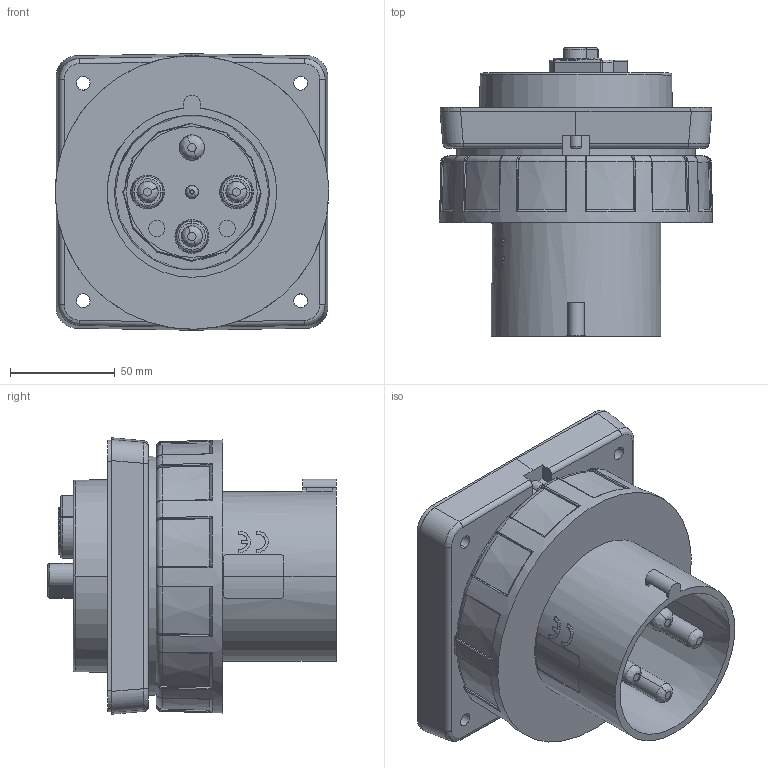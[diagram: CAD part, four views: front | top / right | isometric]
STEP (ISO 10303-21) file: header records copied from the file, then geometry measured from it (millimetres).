
FILE_DESCRIPTION((''),'2;1');
FILE_NAME('1112775_ASM_SW0001','2018-04-04T',('gisse'),('MENNEKES'),'PRO/ENGINEER BY PARAMETRIC TECHNOLOGY CORPORATION, 2015440','PRO/ENGINEER BY PARAMETRIC TECHNOLOGY CORPORATION, 2015440','');
FILE_SCHEMA(('AUTOMOTIVE_DESIGN { 1 0 10303 214 1 1 1 1 }'));
Length unit declared in the file: millimetre
Products named in the file (1): 1112775_ASM_SW0001
Bounding box: 130.85 x 138 x 132.27 mm (x, y, z)
Volume: 855531.7 mm3; surface area: 118777.4 mm2
Topology: 1 solids, 1 shells, 703 faces, 1741 edges, 1090 vertices
Faces by surface type: plane 232, cylinder 209, cone 97, torus 84, bspline 67, sphere 14
Entity records: 37706 total; most frequent: CARTESIAN_POINT 8176, ORIENTED_EDGE 3482, DIRECTION 3316, PRESENTATION_STYLE_ASSIGNMENT 2383, STYLED_ITEM 1742, CURVE_STYLE 1741, EDGE_CURVE 1741, AXIS2_PLACEMENT_3D 1327
